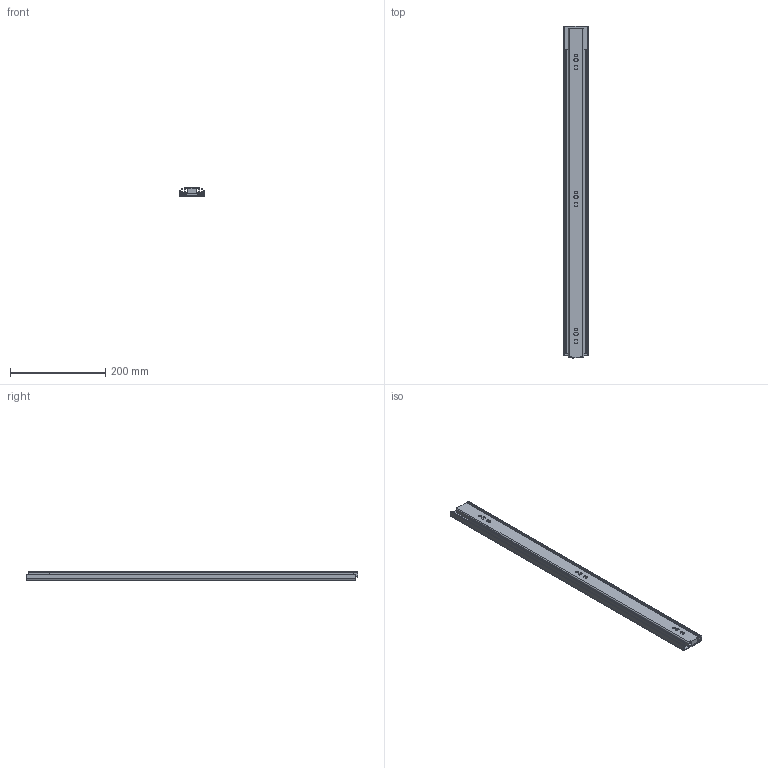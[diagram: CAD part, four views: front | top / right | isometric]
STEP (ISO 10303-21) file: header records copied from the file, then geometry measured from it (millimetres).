
FILE_DESCRIPTION((''),'2;1');
FILE_NAME('78A01_700_CLOSE_ASM','2020-09-01T15:20:30',('T170334'),(''),'CREO PARAMETRIC BY PTC INC, 2018260','CREO PARAMETRIC BY PTC INC, 2018260','');
FILE_SCHEMA(('CONFIG_CONTROL_DESIGN'));
Length unit declared in the file: millimetre
Products named in the file (5): OUT_700; MID_700; IN_700; MECHANISM_C; 78A01_700_CLOSE_ASM
Assembly tree (4 placements, depth 2):
  78A01_700_CLOSE_ASM
    OUT_700
    MID_700
    IN_700
    MECHANISM_C
Bounding box: 53.32 x 698 x 18.84 mm (x, y, z)
Volume: 246468.4 mm3; surface area: 266078 mm2
Topology: 4 solids, 4 shells, 170 faces, 482 edges, 320 vertices
Faces by surface type: cylinder 86, plane 84
Entity records: 5787 total; most frequent: CARTESIAN_POINT 1021, DIRECTION 996, ORIENTED_EDGE 964, EDGE_CURVE 482, AXIS2_PLACEMENT_3D 343, VERTEX_POINT 320, VECTOR 310, LINE 310
